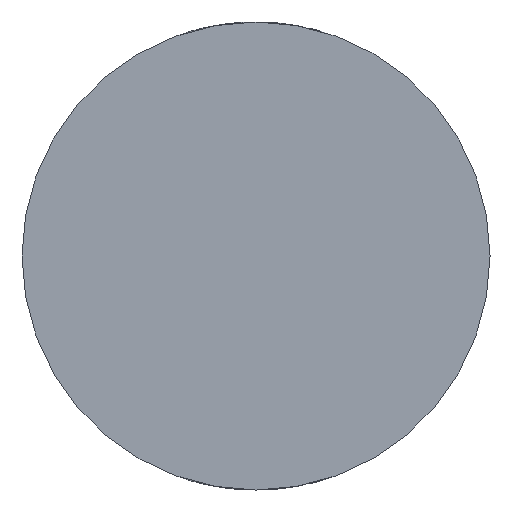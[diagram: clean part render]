
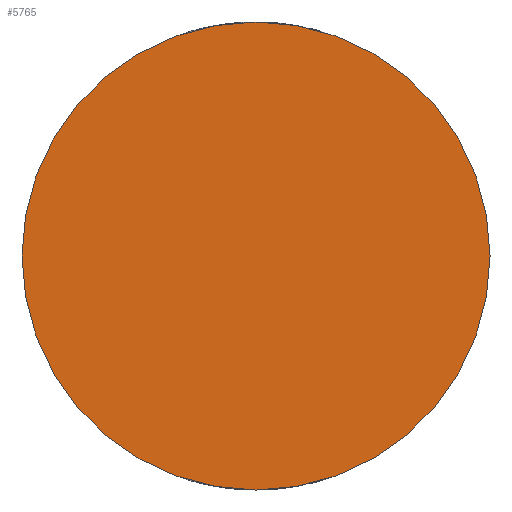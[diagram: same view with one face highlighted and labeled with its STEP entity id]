
A CAD part, front view. The second image highlights one B-rep face of the part: STEP entity #5765.
In plain terms, the highlighted planar face has unit normal (0, -1, 0).
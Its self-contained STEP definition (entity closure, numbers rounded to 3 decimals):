
#232 = AXIS2_PLACEMENT_3D ( 'NONE', #4048, #4499, #641 ) ;
#523 = PLANE ( 'NONE',  #3219 ) ;
#641 = DIRECTION ( 'NONE',  ( 1., 0., 0. ) ) ;
#1079 = DIRECTION ( 'NONE',  ( 0., -1., 0. ) ) ;
#1768 = AXIS2_PLACEMENT_3D ( 'NONE', #5125, #4563, #6767 ) ;
#1769 = DIRECTION ( 'NONE',  ( 1., 0., 0. ) ) ;
#1807 = FACE_OUTER_BOUND ( 'NONE', #5911, .T. ) ;
#2922 = CARTESIAN_POINT ( 'NONE',  ( 0., -46., 0. ) ) ;
#3087 = EDGE_CURVE ( 'NONE', #5529, #7224, #6643, .T. ) ;
#3194 = CARTESIAN_POINT ( 'NONE',  ( -64., -46., 0. ) ) ;
#3219 = AXIS2_PLACEMENT_3D ( 'NONE', #2922, #1079, #1769 ) ;
#3366 = ORIENTED_EDGE ( 'NONE', *, *, #3087, .T. ) ;
#3750 = ORIENTED_EDGE ( 'NONE', *, *, #6315, .T. ) ;
#4048 = CARTESIAN_POINT ( 'NONE',  ( 0., -46., 0. ) ) ;
#4499 = DIRECTION ( 'NONE',  ( 0., -1., 0. ) ) ;
#4520 = CARTESIAN_POINT ( 'NONE',  ( 64., -46., 0. ) ) ;
#4563 = DIRECTION ( 'NONE',  ( 0., -1., 0. ) ) ;
#4968 = CIRCLE ( 'NONE', #1768, 64. ) ;
#5125 = CARTESIAN_POINT ( 'NONE',  ( 0., -46., 0. ) ) ;
#5529 = VERTEX_POINT ( 'NONE', #3194 ) ;
#5765 = ADVANCED_FACE ( 'NONE', ( #1807 ), #523, .T. ) ;
#5911 = EDGE_LOOP ( 'NONE', ( #3366, #3750 ) ) ;
#6315 = EDGE_CURVE ( 'NONE', #7224, #5529, #4968, .T. ) ;
#6643 = CIRCLE ( 'NONE', #232, 64. ) ;
#6767 = DIRECTION ( 'NONE',  ( 1., 0., 0. ) ) ;
#7224 = VERTEX_POINT ( 'NONE', #4520 ) ;
